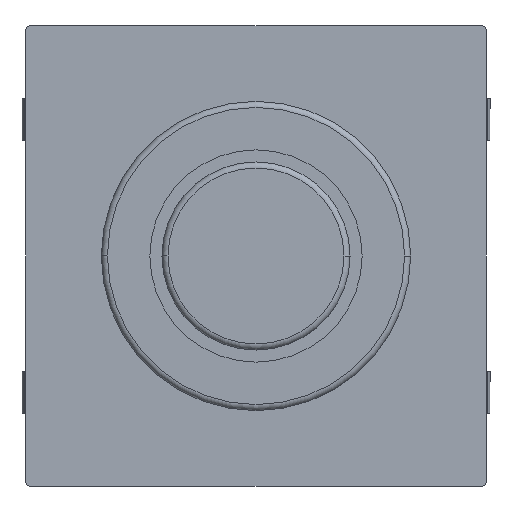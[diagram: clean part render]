
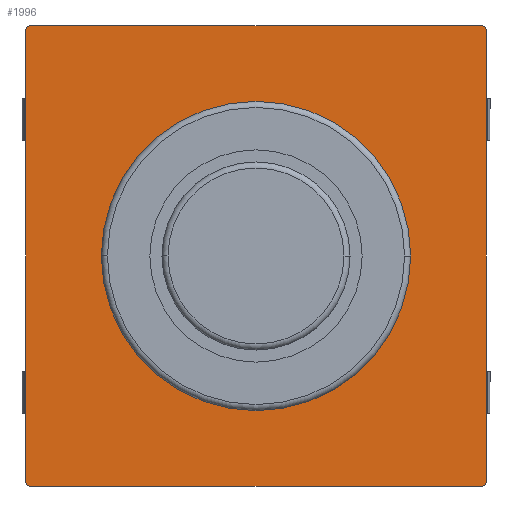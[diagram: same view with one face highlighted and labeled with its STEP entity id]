
A CAD part, front view. The second image highlights one B-rep face of the part: STEP entity #1996.
In plain terms, the highlighted planar face has unit normal (0, -1, 0).
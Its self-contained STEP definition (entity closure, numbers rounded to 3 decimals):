
#29=CARTESIAN_POINT('',(0.,0.,0.));
#30=DIRECTION('',(0.,-1.,0.));
#31=DIRECTION('',(1.,0.,0.));
#32=AXIS2_PLACEMENT_3D('',#29,#30,#31);
#37=CARTESIAN_POINT('',(0.,0.,0.));
#38=DIRECTION('',(0.,-1.,0.));
#39=DIRECTION('',(-1.,0.,0.));
#40=AXIS2_PLACEMENT_3D('',#37,#38,#39);
#77=CARTESIAN_POINT('',(3.7,0.,3.7));
#78=DIRECTION('',(0.,-1.,0.));
#79=DIRECTION('',(1.,0.,0.));
#80=AXIS2_PLACEMENT_3D('',#77,#78,#79);
#85=DIRECTION('',(0.,0.,-1.));
#86=VECTOR('',#85,7.4);
#87=CARTESIAN_POINT('',(3.8,0.,3.7));
#88=LINE('',#87,#86);
#92=CARTESIAN_POINT('',(3.7,0.,-3.7));
#93=DIRECTION('',(0.,-1.,0.));
#94=DIRECTION('',(0.,0.,-1.));
#95=AXIS2_PLACEMENT_3D('',#92,#93,#94);
#100=DIRECTION('',(-1.,0.,0.));
#101=VECTOR('',#100,7.4);
#102=CARTESIAN_POINT('',(3.7,0.,-3.8));
#103=LINE('',#102,#101);
#107=CARTESIAN_POINT('',(-3.7,0.,-3.7));
#108=DIRECTION('',(0.,-1.,0.));
#109=DIRECTION('',(-1.,0.,0.));
#110=AXIS2_PLACEMENT_3D('',#107,#108,#109);
#115=DIRECTION('',(0.,0.,1.));
#116=VECTOR('',#115,7.4);
#117=CARTESIAN_POINT('',(-3.8,0.,-3.7));
#118=LINE('',#117,#116);
#122=CARTESIAN_POINT('',(-3.7,0.,3.7));
#123=DIRECTION('',(0.,-1.,0.));
#124=DIRECTION('',(0.,0.,1.));
#125=AXIS2_PLACEMENT_3D('',#122,#123,#124);
#130=DIRECTION('',(1.,0.,0.));
#131=VECTOR('',#130,7.4);
#132=CARTESIAN_POINT('',(-3.7,0.,3.8));
#133=LINE('',#132,#131);
#1653=CARTESIAN_POINT('',(2.55,0.,0.));
#1654=CARTESIAN_POINT('',(-2.55,0.,0.));
#1655=VERTEX_POINT('',#1653);
#1656=VERTEX_POINT('',#1654);
#1741=CARTESIAN_POINT('',(3.8,0.,3.7));
#1742=CARTESIAN_POINT('',(3.7,0.,3.8));
#1743=VERTEX_POINT('',#1741);
#1744=VERTEX_POINT('',#1742);
#1749=CARTESIAN_POINT('',(3.7,0.,-3.8));
#1750=CARTESIAN_POINT('',(3.8,0.,-3.7));
#1751=VERTEX_POINT('',#1749);
#1752=VERTEX_POINT('',#1750);
#1757=CARTESIAN_POINT('',(-3.7,0.,3.8));
#1758=CARTESIAN_POINT('',(-3.8,0.,3.7));
#1759=VERTEX_POINT('',#1757);
#1760=VERTEX_POINT('',#1758);
#1765=CARTESIAN_POINT('',(-3.8,0.,-3.7));
#1766=CARTESIAN_POINT('',(-3.7,0.,-3.8));
#1767=VERTEX_POINT('',#1765);
#1768=VERTEX_POINT('',#1766);
#1967=CARTESIAN_POINT('',(0.,0.,0.));
#1968=DIRECTION('',(0.,1.,0.));
#1969=DIRECTION('',(1.,0.,0.));
#1970=AXIS2_PLACEMENT_3D('',#1967,#1968,#1969);
#1971=PLANE('',#1970);
#1973=ORIENTED_EDGE('',*,*,#1972,.F.);
#1975=ORIENTED_EDGE('',*,*,#1974,.T.);
#1977=ORIENTED_EDGE('',*,*,#1976,.F.);
#1979=ORIENTED_EDGE('',*,*,#1978,.T.);
#1981=ORIENTED_EDGE('',*,*,#1980,.F.);
#1983=ORIENTED_EDGE('',*,*,#1982,.T.);
#1985=ORIENTED_EDGE('',*,*,#1984,.F.);
#1987=ORIENTED_EDGE('',*,*,#1986,.T.);
#1988=EDGE_LOOP('',(#1973,#1975,#1977,#1979,#1981,#1983,#1985,#1987));
#1989=FACE_OUTER_BOUND('',#1988,.F.);
#1991=ORIENTED_EDGE('',*,*,#1990,.T.);
#1993=ORIENTED_EDGE('',*,*,#1992,.T.);
#1994=EDGE_LOOP('',(#1991,#1993));
#1995=FACE_BOUND('',#1994,.F.);
#33=CIRCLE('',#32,2.55);
#41=CIRCLE('',#40,2.55);
#81=CIRCLE('',#80,0.1);
#96=CIRCLE('',#95,0.1);
#111=CIRCLE('',#110,0.1);
#126=CIRCLE('',#125,0.1);
#1972=EDGE_CURVE('',#1743,#1744,#81,.T.);
#1974=EDGE_CURVE('',#1743,#1752,#88,.T.);
#1976=EDGE_CURVE('',#1751,#1752,#96,.T.);
#1978=EDGE_CURVE('',#1751,#1768,#103,.T.);
#1980=EDGE_CURVE('',#1767,#1768,#111,.T.);
#1982=EDGE_CURVE('',#1767,#1760,#118,.T.);
#1984=EDGE_CURVE('',#1759,#1760,#126,.T.);
#1986=EDGE_CURVE('',#1759,#1744,#133,.T.);
#1990=EDGE_CURVE('',#1655,#1656,#33,.T.);
#1992=EDGE_CURVE('',#1656,#1655,#41,.T.);
#1996=ADVANCED_FACE('',(#1989,#1995),#1971,.F.);
